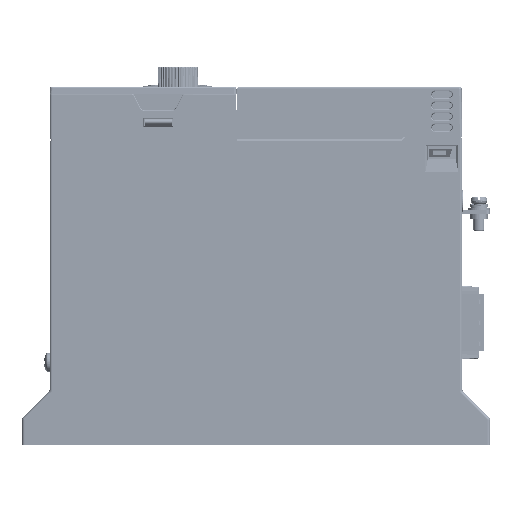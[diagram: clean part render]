
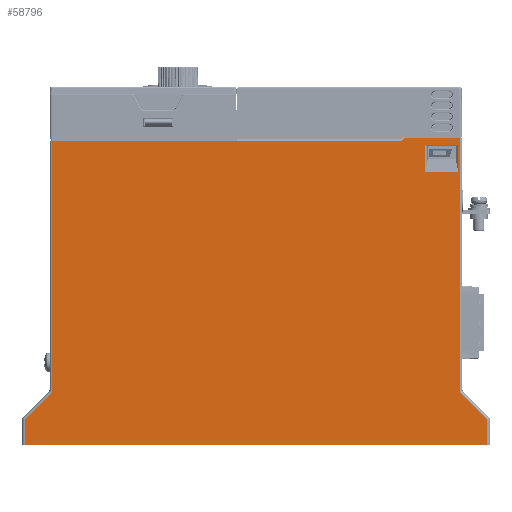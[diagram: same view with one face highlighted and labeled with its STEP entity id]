
A CAD part, left-side view. The second image highlights one B-rep face of the part: STEP entity #58796.
In plain terms, the highlighted planar face has unit normal (-1, 0, 0).
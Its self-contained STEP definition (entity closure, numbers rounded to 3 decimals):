
#18803=DIRECTION('',(0.,0.,1.));
#18804=VECTOR('',#18803,9.8);
#18805=CARTESIAN_POINT('',(0.,-136.5,-31.));
#18806=LINE('',#18805,#18804);
#21763=DIRECTION('',(0.,-1.,0.));
#21764=VECTOR('',#21763,168.);
#21765=CARTESIAN_POINT('',(0.,9.,-130.2));
#21766=LINE('',#21765,#21764);
#23548=DIRECTION('',(0.,1.,0.));
#23549=VECTOR('',#23548,12.);
#23550=CARTESIAN_POINT('',(0.,-148.5,-21.2));
#23551=LINE('',#23550,#23549);
#23555=DIRECTION('',(0.,1.,0.));
#23556=VECTOR('',#23555,12.);
#23557=CARTESIAN_POINT('',(0.,-148.5,-31.));
#23558=LINE('',#23557,#23556);
#23643=DIRECTION('',(0.,1.,0.));
#23644=VECTOR('',#23643,20.);
#23645=CARTESIAN_POINT('',(0.,-149.,-18.5));
#23646=LINE('',#23645,#23644);
#23650=DIRECTION('',(0.,0.,-1.));
#23651=VECTOR('',#23650,91.586);
#23652=CARTESIAN_POINT('',(0.,-149.,-18.5));
#23653=LINE('',#23652,#23651);
#23657=CARTESIAN_POINT('',(0.,-151.,-110.086));
#23658=DIRECTION('',(-1.,0.,0.));
#23659=DIRECTION('',(0.,1.,0.));
#23660=AXIS2_PLACEMENT_3D('',#23657,#23658,#23659);
#23665=DIRECTION('',(0.,-0.707,-0.707));
#23666=VECTOR('',#23665,13.314);
#23667=CARTESIAN_POINT('',(0.,-149.586,-111.5));
#23668=LINE('',#23667,#23666);
#23672=DIRECTION('',(0.,0.,-1.));
#23673=VECTOR('',#23672,9.286);
#23674=CARTESIAN_POINT('',(0.,-159.,-120.914));
#23675=LINE('',#23674,#23673);
#23679=DIRECTION('',(0.,0.,1.));
#23680=VECTOR('',#23679,9.286);
#23681=CARTESIAN_POINT('',(0.,9.,-130.2));
#23682=LINE('',#23681,#23680);
#23686=DIRECTION('',(0.,-0.707,0.707));
#23687=VECTOR('',#23686,13.314);
#23688=CARTESIAN_POINT('',(0.,9.,-120.914));
#23689=LINE('',#23688,#23687);
#23693=CARTESIAN_POINT('',(0.,1.,-110.086));
#23694=DIRECTION('',(-1.,0.,0.));
#23695=DIRECTION('',(0.,-0.707,-0.707));
#23696=AXIS2_PLACEMENT_3D('',#23693,#23694,#23695);
#23701=DIRECTION('',(0.,0.,1.));
#23702=VECTOR('',#23701,90.586);
#23703=CARTESIAN_POINT('',(0.,-1.,-110.086));
#23704=LINE('',#23703,#23702);
#23708=DIRECTION('',(0.,0.707,-0.707));
#23709=VECTOR('',#23708,1.414);
#23710=CARTESIAN_POINT('',(0.,-129.,-18.5));
#23711=LINE('',#23710,#23709);
#27223=DIRECTION('',(0.,1.,0.));
#27224=VECTOR('',#27223,127.);
#27225=CARTESIAN_POINT('',(0.,-128.,-19.5));
#27226=LINE('',#27225,#27224);
#31231=DIRECTION('',(0.,0.,-1.));
#31232=VECTOR('',#31231,9.8);
#31233=CARTESIAN_POINT('',(0.,-148.5,-21.2));
#31234=LINE('',#31233,#31232);
#41653=CARTESIAN_POINT('',(0.,-148.5,-31.));
#41654=CARTESIAN_POINT('',(0.,-136.5,-31.));
#41655=VERTEX_POINT('',#41653);
#41656=VERTEX_POINT('',#41654);
#41662=CARTESIAN_POINT('',(0.,-128.,-19.5));
#41664=VERTEX_POINT('',#41662);
#42065=CARTESIAN_POINT('',(0.,-148.5,-21.2));
#42066=CARTESIAN_POINT('',(0.,-136.5,-21.2));
#42067=VERTEX_POINT('',#42065);
#42068=VERTEX_POINT('',#42066);
#42958=CARTESIAN_POINT('',(0.,-159.,-130.2));
#42960=VERTEX_POINT('',#42958);
#42961=CARTESIAN_POINT('',(0.,-159.,-120.914));
#42962=VERTEX_POINT('',#42961);
#42973=CARTESIAN_POINT('',(0.,9.,-130.2));
#42974=CARTESIAN_POINT('',(0.,9.,-120.914));
#42975=VERTEX_POINT('',#42973);
#42976=VERTEX_POINT('',#42974);
#43039=CARTESIAN_POINT('',(0.,-0.414,-111.5));
#43040=CARTESIAN_POINT('',(0.,-1.,-110.086));
#43041=VERTEX_POINT('',#43039);
#43042=VERTEX_POINT('',#43040);
#43053=CARTESIAN_POINT('',(0.,-149.586,-111.5));
#43054=VERTEX_POINT('',#43053);
#43055=CARTESIAN_POINT('',(0.,-149.,-110.086));
#43056=VERTEX_POINT('',#43055);
#43835=CARTESIAN_POINT('',(0.,-1.,-19.5));
#43836=VERTEX_POINT('',#43835);
#43847=CARTESIAN_POINT('',(0.,-149.,-18.5));
#43848=CARTESIAN_POINT('',(0.,-129.,-18.5));
#43849=VERTEX_POINT('',#43847);
#43850=VERTEX_POINT('',#43848);
#58758=CARTESIAN_POINT('',(0.,0.,0.));
#58759=DIRECTION('',(-1.,0.,0.));
#58760=DIRECTION('',(0.,-1.,0.));
#58761=AXIS2_PLACEMENT_3D('',#58758,#58759,#58760);
#58762=PLANE('',#58761);
#58764=ORIENTED_EDGE('',*,*,#58763,.F.);
#58766=ORIENTED_EDGE('',*,*,#58765,.T.);
#58768=ORIENTED_EDGE('',*,*,#58767,.T.);
#58770=ORIENTED_EDGE('',*,*,#58769,.T.);
#58772=ORIENTED_EDGE('',*,*,#58771,.T.);
#58773=ORIENTED_EDGE('',*,*,#56824,.F.);
#58775=ORIENTED_EDGE('',*,*,#58774,.T.);
#58777=ORIENTED_EDGE('',*,*,#58776,.T.);
#58779=ORIENTED_EDGE('',*,*,#58778,.T.);
#58781=ORIENTED_EDGE('',*,*,#58780,.T.);
#58783=ORIENTED_EDGE('',*,*,#58782,.F.);
#58785=ORIENTED_EDGE('',*,*,#58784,.F.);
#58786=EDGE_LOOP('',(#58764,#58766,#58768,#58770,#58772,#58773,#58775,#58777,
#58779,#58781,#58783,#58785));
#58787=FACE_OUTER_BOUND('',#58786,.F.);
#58789=ORIENTED_EDGE('',*,*,#58788,.T.);
#58790=ORIENTED_EDGE('',*,*,#54484,.F.);
#58791=ORIENTED_EDGE('',*,*,#54509,.F.);
#58793=ORIENTED_EDGE('',*,*,#58792,.F.);
#58794=EDGE_LOOP('',(#58789,#58790,#58791,#58793));
#58795=FACE_BOUND('',#58794,.F.);
#58796=ADVANCED_FACE('',(#58787,#58795),#58762,.T.);
#23661=CIRCLE('',#23660,2.);
#23697=CIRCLE('',#23696,2.);
#54484=EDGE_CURVE('',#41656,#42068,#18806,.T.);
#54509=EDGE_CURVE('',#41655,#41656,#23558,.T.);
#56824=EDGE_CURVE('',#42975,#42960,#21766,.T.);
#58763=EDGE_CURVE('',#43849,#43850,#23646,.T.);
#58765=EDGE_CURVE('',#43849,#43056,#23653,.T.);
#58767=EDGE_CURVE('',#43056,#43054,#23661,.T.);
#58769=EDGE_CURVE('',#43054,#42962,#23668,.T.);
#58771=EDGE_CURVE('',#42962,#42960,#23675,.T.);
#58774=EDGE_CURVE('',#42975,#42976,#23682,.T.);
#58776=EDGE_CURVE('',#42976,#43041,#23689,.T.);
#58778=EDGE_CURVE('',#43041,#43042,#23697,.T.);
#58780=EDGE_CURVE('',#43042,#43836,#23704,.T.);
#58782=EDGE_CURVE('',#41664,#43836,#27226,.T.);
#58784=EDGE_CURVE('',#43850,#41664,#23711,.T.);
#58788=EDGE_CURVE('',#42067,#42068,#23551,.T.);
#58792=EDGE_CURVE('',#42067,#41655,#31234,.T.);
